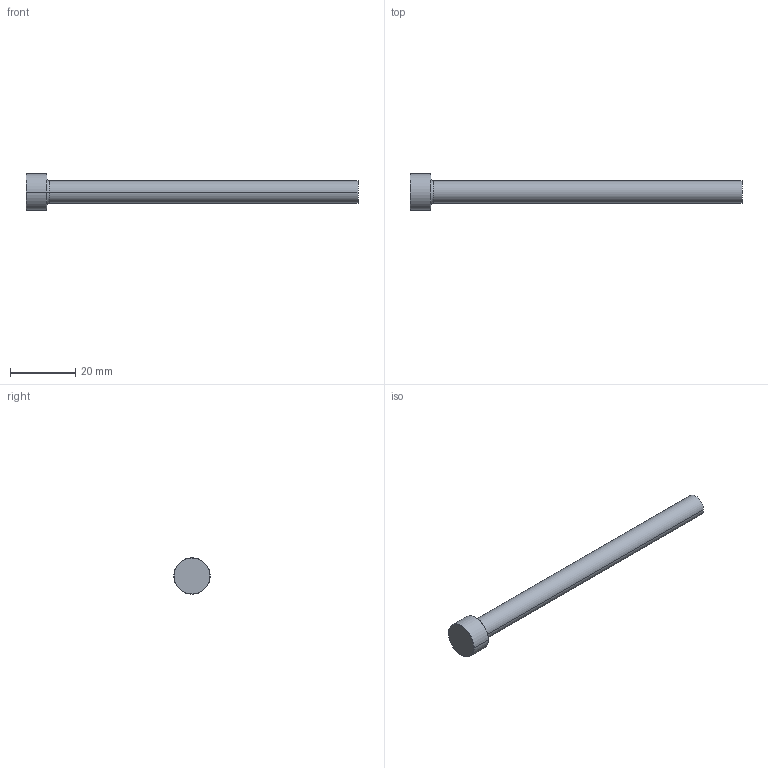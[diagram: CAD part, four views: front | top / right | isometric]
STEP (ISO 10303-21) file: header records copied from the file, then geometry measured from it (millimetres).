
FILE_DESCRIPTION (( 'STEP AP214' ), '1' );
FILE_NAME ('P18-4.STEP', '2020-03-12T08:51:15', ( '' ), ( '' ), 'SwSTEP 2.0', 'SolidWorks 2018', '' );
FILE_SCHEMA (( 'AUTOMOTIVE_DESIGN' ));
Length unit declared in the file: inch
Products named in the file (1): P18-4
Bounding box: 101.6 x 11.11 x 11.11 mm (x, y, z)
Volume: 4015.9 mm3; surface area: 2421.4 mm2
Topology: 1 solids, 1 shells, 13 faces, 24 edges, 14 vertices
Faces by surface type: cone 4, cylinder 4, plane 3, torus 2
Entity records: 366 total; most frequent: DIRECTION 68, CARTESIAN_POINT 52, ORIENTED_EDGE 48, AXIS2_PLACEMENT_3D 30, EDGE_CURVE 24, CIRCLE 16, VERTEX_POINT 14, EDGE_LOOP 14
